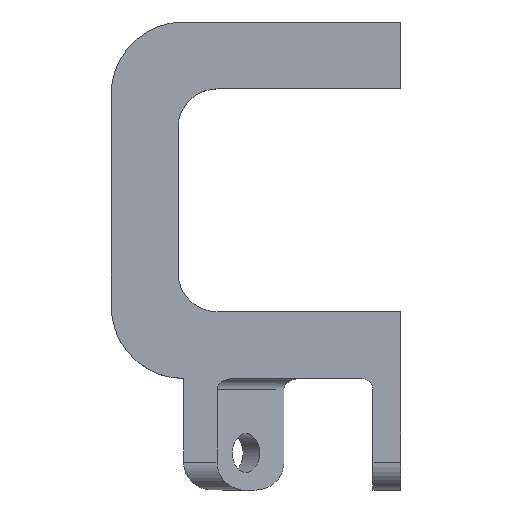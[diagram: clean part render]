
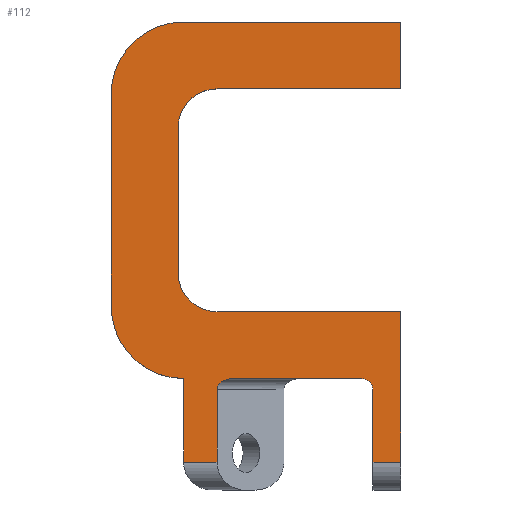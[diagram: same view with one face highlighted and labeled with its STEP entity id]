
A CAD part, top view. The second image highlights one B-rep face of the part: STEP entity #112.
In plain terms, the highlighted planar face has unit normal (0, 0, 1).
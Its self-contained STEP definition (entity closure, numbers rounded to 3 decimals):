
#112=ADVANCED_FACE('',(#430),#432,.T.);
#430=FACE_BOUND('',#431,.T.);
#431=EDGE_LOOP('',(#697,#698,#699,#700,#701,#702,#703,#704,#705,#706,#707,#708,#709,
#710,#711,#712,#713,#714,#715));
#432=PLANE('',#433);
#433=AXIS2_PLACEMENT_3D('',#434,#435,#436);
#434=CARTESIAN_POINT('',(0.,0.,12.));
#435=DIRECTION('',(0.,0.,1.));
#436=DIRECTION('',(1.,0.,0.));
#697=ORIENTED_EDGE('',*,*,#879,.F.);
#698=ORIENTED_EDGE('',*,*,#880,.T.);
#699=ORIENTED_EDGE('',*,*,#881,.F.);
#700=ORIENTED_EDGE('',*,*,#882,.F.);
#701=ORIENTED_EDGE('',*,*,#883,.T.);
#702=ORIENTED_EDGE('',*,*,#884,.F.);
#703=ORIENTED_EDGE('',*,*,#885,.T.);
#704=ORIENTED_EDGE('',*,*,#886,.F.);
#705=ORIENTED_EDGE('',*,*,#887,.T.);
#706=ORIENTED_EDGE('',*,*,#888,.T.);
#707=ORIENTED_EDGE('',*,*,#889,.T.);
#708=ORIENTED_EDGE('',*,*,#890,.F.);
#709=ORIENTED_EDGE('',*,*,#891,.T.);
#710=ORIENTED_EDGE('',*,*,#892,.F.);
#711=ORIENTED_EDGE('',*,*,#845,.T.);
#712=ORIENTED_EDGE('',*,*,#893,.F.);
#713=ORIENTED_EDGE('',*,*,#852,.F.);
#714=ORIENTED_EDGE('',*,*,#894,.F.);
#715=ORIENTED_EDGE('',*,*,#895,.T.);
#845=EDGE_CURVE('',#942,#939,#943,.T.);
#852=EDGE_CURVE('',#954,#956,#957,.T.);
#879=EDGE_CURVE('',#1004,#1005,#1006,.F.);
#880=EDGE_CURVE('',#1004,#1007,#1008,.T.);
#881=EDGE_CURVE('',#1009,#1007,#1010,.T.);
#882=EDGE_CURVE('',#1011,#1009,#1012,.T.);
#883=EDGE_CURVE('',#1011,#1013,#1014,.T.);
#884=EDGE_CURVE('',#1015,#1013,#1016,.F.);
#885=EDGE_CURVE('',#1015,#1017,#1018,.T.);
#886=EDGE_CURVE('',#1019,#1017,#1020,.F.);
#887=EDGE_CURVE('',#1019,#1021,#1022,.T.);
#888=EDGE_CURVE('',#1021,#1023,#1024,.T.);
#889=EDGE_CURVE('',#1023,#1025,#1026,.T.);
#890=EDGE_CURVE('',#1027,#1025,#1028,.F.);
#891=EDGE_CURVE('',#1027,#1029,#1030,.T.);
#892=EDGE_CURVE('',#942,#1029,#1031,.F.);
#893=EDGE_CURVE('',#956,#939,#1032,.T.);
#894=EDGE_CURVE('',#1033,#954,#1034,.T.);
#895=EDGE_CURVE('',#1033,#1005,#1035,.T.);
#939=VERTEX_POINT('',#1099);
#942=VERTEX_POINT('',#1105);
#943=LINE('',#1106,#1107);
#954=VERTEX_POINT('',#1131);
#956=VERTEX_POINT('',#1135);
#957=LINE('',#1136,#1137);
#1004=VERTEX_POINT('',#1246);
#1005=VERTEX_POINT('',#1247);
#1006=CIRCLE('',#1248,2.);
#1007=VERTEX_POINT('',#1252);
#1008=LINE('',#1253,#1254);
#1009=VERTEX_POINT('',#1256);
#1010=LINE('',#1257,#1258);
#1011=VERTEX_POINT('',#1260);
#1012=LINE('',#1261,#1262);
#1013=VERTEX_POINT('',#1264);
#1014=LINE('',#1265,#1266);
#1015=VERTEX_POINT('',#1268);
#1016=CIRCLE('',#1269,7.);
#1017=VERTEX_POINT('',#1273);
#1018=LINE('',#1274,#1275);
#1019=VERTEX_POINT('',#1277);
#1020=CIRCLE('',#1278,7.);
#1021=VERTEX_POINT('',#1282);
#1022=LINE('',#1283,#1284);
#1023=VERTEX_POINT('',#1286);
#1024=LINE('',#1287,#1288);
#1025=VERTEX_POINT('',#1290);
#1026=LINE('',#1291,#1292);
#1027=VERTEX_POINT('',#1294);
#1028=CIRCLE('',#1295,13.);
#1029=VERTEX_POINT('',#1299);
#1030=LINE('',#1300,#1301);
#1031=CIRCLE('',#1303,13.);
#1032=LINE('',#1307,#1308);
#1033=VERTEX_POINT('',#1310);
#1034=(BOUNDED_CURVE()B_SPLINE_CURVE(3,
(#1311,#1312,#1313,#1314),
.UNSPECIFIED.,.F.,.F.)B_SPLINE_CURVE_WITH_KNOTS((4,4),
(0.,1.),
.UNSPECIFIED.)CURVE()GEOMETRIC_REPRESENTATION_ITEM()RATIONAL_B_SPLINE_CURVE((1.,
0.805,0.805,1.))REPRESENTATION_ITEM(''));
#1035=LINE('',#1315,#1316);
#1099=CARTESIAN_POINT('',(-39.,-27.,12.));
#1105=CARTESIAN_POINT('',(-39.,-12.,12.));
#1106=CARTESIAN_POINT('',(-39.,-12.,12.));
#1107=VECTOR('',#1108,1.);
#1108=DIRECTION('',(0.,-1.,0.));
#1131=CARTESIAN_POINT('',(-33.,-14.,12.));
#1135=CARTESIAN_POINT('',(-33.,-27.,12.));
#1136=CARTESIAN_POINT('',(-33.,-14.,12.));
#1137=VECTOR('',#1138,1.);
#1138=DIRECTION('',(0.,-1.,0.));
#1246=CARTESIAN_POINT('',(-5.,-14.,12.));
#1247=CARTESIAN_POINT('',(-7.,-12.,12.));
#1248=AXIS2_PLACEMENT_3D('',#1249,#1250,#1251);
#1249=CARTESIAN_POINT('',(-7.,-14.,12.));
#1250=DIRECTION('',(0.,0.,-1.));
#1251=DIRECTION('',(0.,1.,0.));
#1252=CARTESIAN_POINT('',(-5.,-27.,12.));
#1253=CARTESIAN_POINT('',(-5.,-14.,12.));
#1254=VECTOR('',#1255,1.);
#1255=DIRECTION('',(0.,-1.,0.));
#1256=CARTESIAN_POINT('',(0.,-27.,12.));
#1257=CARTESIAN_POINT('',(0.,-27.,12.));
#1258=VECTOR('',#1259,1.);
#1259=DIRECTION('',(-1.,0.,0.));
#1260=CARTESIAN_POINT('',(0.,0.,12.));
#1261=CARTESIAN_POINT('',(0.,0.,12.));
#1262=VECTOR('',#1263,1.);
#1263=DIRECTION('',(0.,-1.,0.));
#1264=CARTESIAN_POINT('',(-33.,0.,12.));
#1265=CARTESIAN_POINT('',(0.,0.,12.));
#1266=VECTOR('',#1267,1.);
#1267=DIRECTION('',(-1.,0.,0.));
#1268=CARTESIAN_POINT('',(-40.,7.,12.));
#1269=AXIS2_PLACEMENT_3D('',#1270,#1271,#1272);
#1270=CARTESIAN_POINT('',(-33.,7.,12.));
#1271=DIRECTION('',(0.,0.,-1.));
#1272=DIRECTION('',(0.,-1.,0.));
#1273=CARTESIAN_POINT('',(-40.,33.,12.));
#1274=CARTESIAN_POINT('',(-40.,7.,12.));
#1275=VECTOR('',#1276,1.);
#1276=DIRECTION('',(0.,1.,0.));
#1277=CARTESIAN_POINT('',(-33.,40.,12.));
#1278=AXIS2_PLACEMENT_3D('',#1279,#1280,#1281);
#1279=CARTESIAN_POINT('',(-33.,33.,12.));
#1280=DIRECTION('',(0.,0.,-1.));
#1281=DIRECTION('',(-1.,0.,0.));
#1282=CARTESIAN_POINT('',(0.,40.,12.));
#1283=CARTESIAN_POINT('',(-33.,40.,12.));
#1284=VECTOR('',#1285,1.);
#1285=DIRECTION('',(1.,0.,0.));
#1286=CARTESIAN_POINT('',(0.,52.,12.));
#1287=CARTESIAN_POINT('',(0.,40.,12.));
#1288=VECTOR('',#1289,1.);
#1289=DIRECTION('',(0.,1.,0.));
#1290=CARTESIAN_POINT('',(-39.,52.,12.));
#1291=CARTESIAN_POINT('',(0.,52.,12.));
#1292=VECTOR('',#1293,1.);
#1293=DIRECTION('',(-1.,0.,0.));
#1294=CARTESIAN_POINT('',(-52.,39.,12.));
#1295=AXIS2_PLACEMENT_3D('',#1296,#1297,#1298);
#1296=CARTESIAN_POINT('',(-39.,39.,12.));
#1297=DIRECTION('',(0.,0.,1.));
#1298=DIRECTION('',(0.,1.,0.));
#1299=CARTESIAN_POINT('',(-52.,1.,12.));
#1300=CARTESIAN_POINT('',(-52.,39.,12.));
#1301=VECTOR('',#1302,1.);
#1302=DIRECTION('',(0.,-1.,0.));
#1303=AXIS2_PLACEMENT_3D('',#1304,#1305,#1306);
#1304=CARTESIAN_POINT('',(-39.,1.,12.));
#1305=DIRECTION('',(0.,0.,1.));
#1306=DIRECTION('',(-1.,0.,0.));
#1307=CARTESIAN_POINT('',(-33.,-27.,12.));
#1308=VECTOR('',#1309,1.);
#1309=DIRECTION('',(-1.,0.,0.));
#1310=CARTESIAN_POINT('',(-30.172,-12.,12.));
#1311=CARTESIAN_POINT('',(-30.172,-12.,12.));
#1312=CARTESIAN_POINT('',(-31.828,-12.,12.));
#1313=CARTESIAN_POINT('',(-33.,-12.828,12.));
#1314=CARTESIAN_POINT('',(-33.,-14.,12.));
#1315=CARTESIAN_POINT('',(-30.172,-12.,12.));
#1316=VECTOR('',#1317,1.);
#1317=DIRECTION('',(1.,0.,0.));
